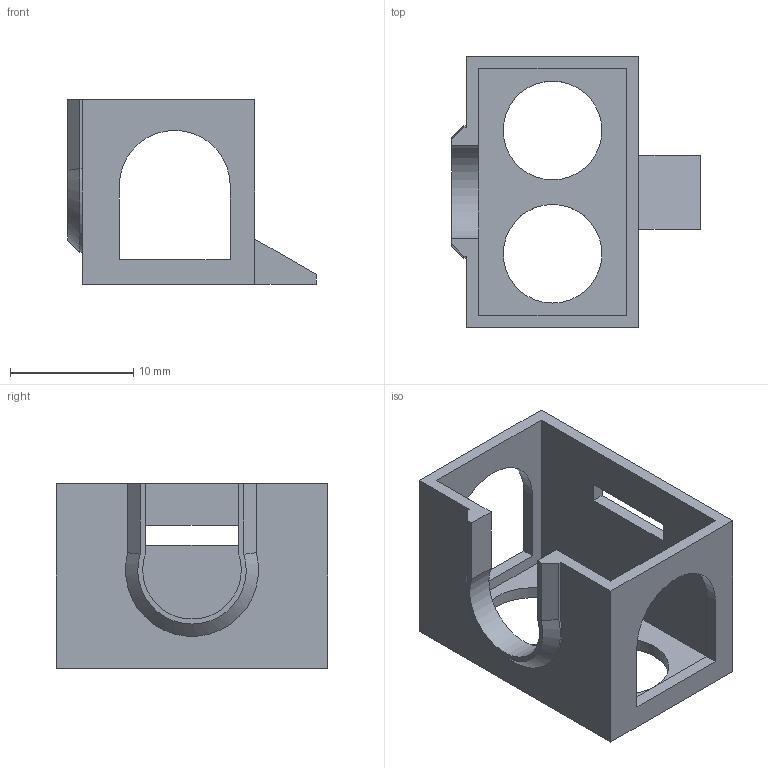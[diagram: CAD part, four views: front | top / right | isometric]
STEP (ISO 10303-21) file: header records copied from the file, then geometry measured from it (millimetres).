
FILE_DESCRIPTION(('FreeCAD Model'),'2;1');
FILE_NAME('Open CASCADE Shape Model','2025-12-01T18:58:28',(''),(''), 'Open CASCADE STEP processor 7.7','FreeCAD','Unknown');
FILE_SCHEMA(('AUTOMOTIVE_DESIGN { 1 0 10303 214 1 1 1 1 }'));
Length unit declared in the file: millimetre
Products named in the file (1): Chamfer001
Bounding box: 20.2 x 22 x 15 mm (x, y, z)
Volume: 998.6 mm3; surface area: 2147.4 mm2
Topology: 1 solids, 1 shells, 39 faces, 109 edges, 72 vertices
Faces by surface type: plane 32, cylinder 6, cone 1
Full cylindrical faces by diameter (mm): 8 x2
Entity records: 2680 total; most frequent: CARTESIAN_POINT 551, DIRECTION 360, LINE 246, VECTOR 246, ORIENTED_EDGE 218, PCURVE 218, DEFINITIONAL_REPRESENTATION 218, EDGE_CURVE 109
